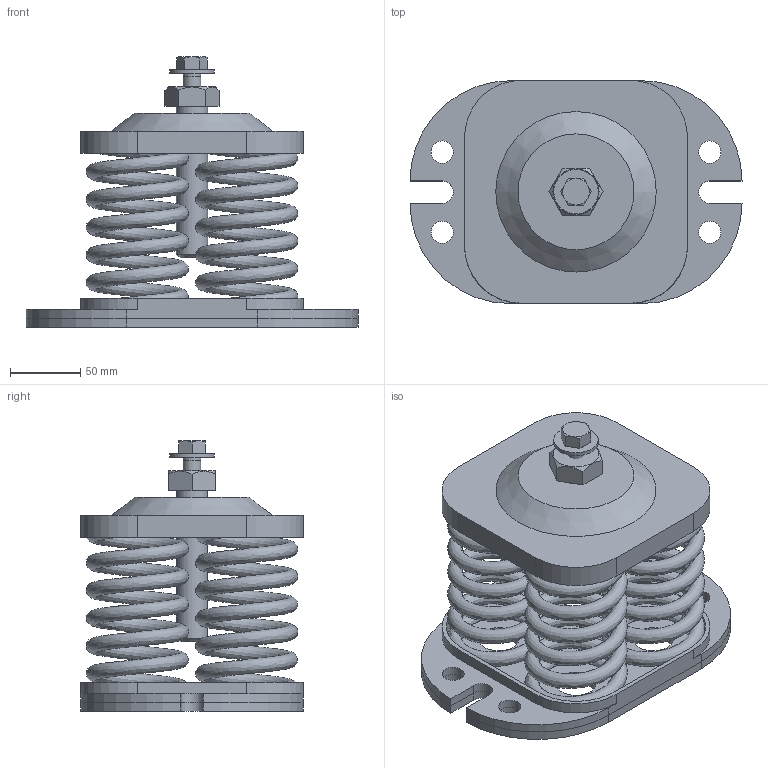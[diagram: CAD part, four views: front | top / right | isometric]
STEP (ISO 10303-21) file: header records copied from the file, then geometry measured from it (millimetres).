
FILE_DESCRIPTION(/* description */ (''),/* implementation_level */ '2;1');
FILE_NAME(/* name */ '\\Mleuckthor2\cad-proe_solids\WEBSITE FILES 05.22.13\STEP\SLFH4\SLFH-4-C2-7480.stp',/* time_stamp */ '2016-02-29T09:12:00-05:00',/* author */ ('rramoutar'),/* organization */ ('Mason Industries Inc.'),/* preprocessor_version */ 'ST-DEVELOPER v15.6',/* originating_system */ 'Autodesk Inventor 2015',/* authorisation */ '');
FILE_SCHEMA (('CONFIG_CONTROL_DESIGN'));
Length unit declared in the file: inch
Products named in the file (1): SLFH-4-C2-7480
Bounding box: 236.54 x 158.75 x 192.76 mm (x, y, z)
Volume: 1019243.1 mm3; surface area: 407968.6 mm2
Topology: 10 solids, 10 shells, 251 faces, 587 edges, 369 vertices
Faces by surface type: plane 103, cylinder 99, torus 25, bspline 12, cone 12
Full cylindrical faces by diameter (mm): 10.592 x1, 12.7 x1, 13.487 x1, 15.875 x8, 19.05 x1, 19.177 x1, 22.225 x1, 28.575 x8, 31.75 x1
Entity records: 16108 total; most frequent: CARTESIAN_POINT 10096, DIRECTION 1238, ORIENTED_EDGE 1088, EDGE_CURVE 544, AXIS2_PLACEMENT_3D 496, VERTEX_POINT 356, EDGE_LOOP 330, STYLED_ITEM 261
